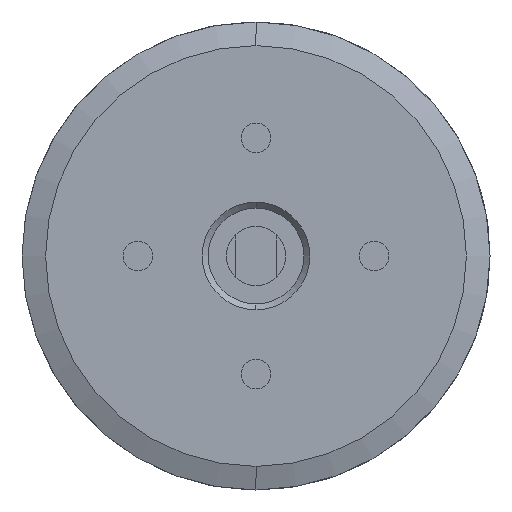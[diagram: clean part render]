
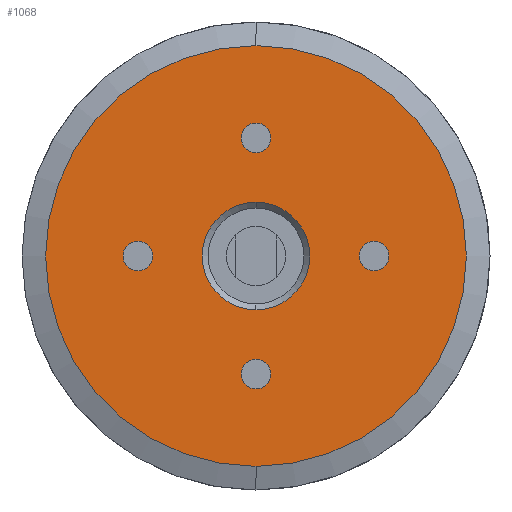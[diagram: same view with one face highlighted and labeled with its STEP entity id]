
A CAD part, left-side view. The second image highlights one B-rep face of the part: STEP entity #1068.
In plain terms, the highlighted planar face has unit normal (-1, 0, 0).
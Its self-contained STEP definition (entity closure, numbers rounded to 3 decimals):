
#91 = CARTESIAN_POINT ( 'NONE',  ( 0., 10., 0. ) ) ;
#202 = DIRECTION ( 'NONE',  ( -1., 0., 0. ) ) ;
#1068 = ADVANCED_FACE ( 'NONE', ( #25168, #28709, #18710, #15226, #38616, #47449 ), #24021, .F. ) ;
#1399 = EDGE_LOOP ( 'NONE', ( #25210, #21463 ) ) ;
#2071 = DIRECTION ( 'NONE',  ( 0., 0., -1. ) ) ;
#3689 = DIRECTION ( 'NONE',  ( 0., 0., -1. ) ) ;
#3822 = DIRECTION ( 'NONE',  ( 0., 0., 1. ) ) ;
#4030 = CARTESIAN_POINT ( 'NONE',  ( 0., 0., 8.75 ) ) ;
#4356 = VERTEX_POINT ( 'NONE', #43809 ) ;
#5303 = ORIENTED_EDGE ( 'NONE', *, *, #39334, .T. ) ;
#5646 = CARTESIAN_POINT ( 'NONE',  ( 0., 0., -8.75 ) ) ;
#5689 = CARTESIAN_POINT ( 'NONE',  ( 0., 0., -4.55 ) ) ;
#7775 = CARTESIAN_POINT ( 'NONE',  ( 0., 0., 0. ) ) ;
#8655 = VERTEX_POINT ( 'NONE', #26312 ) ;
#9538 = AXIS2_PLACEMENT_3D ( 'NONE', #43114, #35244, #16484 ) ;
#9671 = DIRECTION ( 'NONE',  ( 0., 0., 1. ) ) ;
#10459 = EDGE_LOOP ( 'NONE', ( #37796, #11679 ) ) ;
#10934 = AXIS2_PLACEMENT_3D ( 'NONE', #40005, #28936, #47922 ) ;
#11225 = EDGE_CURVE ( 'NONE', #12290, #30198, #36084, .T. ) ;
#11679 = ORIENTED_EDGE ( 'NONE', *, *, #13287, .F. ) ;
#11732 = VERTEX_POINT ( 'NONE', #26383 ) ;
#12290 = VERTEX_POINT ( 'NONE', #30933 ) ;
#12592 = CARTESIAN_POINT ( 'NONE',  ( 0., 0., -17.8 ) ) ;
#12968 = DIRECTION ( 'NONE',  ( -1., 0., 0. ) ) ;
#13287 = EDGE_CURVE ( 'NONE', #23819, #31602, #35637, .T. ) ;
#13619 = AXIS2_PLACEMENT_3D ( 'NONE', #7775, #22554, #3689 ) ;
#13766 = CIRCLE ( 'NONE', #13619, 17.8 ) ;
#14872 = DIRECTION ( 'NONE',  ( 0., 0., 1. ) ) ;
#15037 = EDGE_LOOP ( 'NONE', ( #15046, #24525 ) ) ;
#15046 = ORIENTED_EDGE ( 'NONE', *, *, #37079, .T. ) ;
#15226 = FACE_BOUND ( 'NONE', #10459, .T. ) ;
#15585 = DIRECTION ( 'NONE',  ( 0., 0., 1. ) ) ;
#15612 = AXIS2_PLACEMENT_3D ( 'NONE', #32126, #12968, #9671 ) ;
#15941 = ORIENTED_EDGE ( 'NONE', *, *, #11225, .F. ) ;
#15948 = AXIS2_PLACEMENT_3D ( 'NONE', #17991, #47967, #14872 ) ;
#15981 = EDGE_LOOP ( 'NONE', ( #15941, #47353 ) ) ;
#16233 = AXIS2_PLACEMENT_3D ( 'NONE', #29998, #35169, #36651 ) ;
#16484 = DIRECTION ( 'NONE',  ( 0., 0., 1. ) ) ;
#16778 = ORIENTED_EDGE ( 'NONE', *, *, #28721, .T. ) ;
#17737 = EDGE_CURVE ( 'NONE', #11732, #40946, #24805, .T. ) ;
#17991 = CARTESIAN_POINT ( 'NONE',  ( 0., -10., 0. ) ) ;
#18248 = CARTESIAN_POINT ( 'NONE',  ( 0., 0., 0. ) ) ;
#18710 = FACE_BOUND ( 'NONE', #40571, .T. ) ;
#18711 = CARTESIAN_POINT ( 'NONE',  ( 0., 10., 0. ) ) ;
#19428 = ORIENTED_EDGE ( 'NONE', *, *, #45410, .F. ) ;
#19449 = AXIS2_PLACEMENT_3D ( 'NONE', #91, #37558, #29740 ) ;
#19515 = DIRECTION ( 'NONE',  ( 0., 0., -1. ) ) ;
#20746 = DIRECTION ( 'NONE',  ( 1., 0., 0. ) ) ;
#21463 = ORIENTED_EDGE ( 'NONE', *, *, #40567, .F. ) ;
#21487 = VERTEX_POINT ( 'NONE', #4030 ) ;
#21904 = VERTEX_POINT ( 'NONE', #29229 ) ;
#22554 = DIRECTION ( 'NONE',  ( -1., 0., 0. ) ) ;
#23819 = VERTEX_POINT ( 'NONE', #32818 ) ;
#24021 = PLANE ( 'NONE',  #28716 ) ;
#24525 = ORIENTED_EDGE ( 'NONE', *, *, #35100, .T. ) ;
#24805 = CIRCLE ( 'NONE', #9538, 1.25 ) ;
#25168 = FACE_BOUND ( 'NONE', #15037, .T. ) ;
#25210 = ORIENTED_EDGE ( 'NONE', *, *, #27269, .F. ) ;
#25787 = DIRECTION ( 'NONE',  ( 0., 0., -1. ) ) ;
#26022 = CIRCLE ( 'NONE', #36999, 4.55 ) ;
#26312 = CARTESIAN_POINT ( 'NONE',  ( 0., 0., 11.25 ) ) ;
#26383 = CARTESIAN_POINT ( 'NONE',  ( 0., -10., 1.25 ) ) ;
#26708 = CARTESIAN_POINT ( 'NONE',  ( 0., 0., -10. ) ) ;
#27062 = CIRCLE ( 'NONE', #43261, 17.8 ) ;
#27269 = EDGE_CURVE ( 'NONE', #8655, #21487, #36088, .T. ) ;
#27836 = CIRCLE ( 'NONE', #10934, 1.25 ) ;
#28709 = FACE_BOUND ( 'NONE', #1399, .T. ) ;
#28716 = AXIS2_PLACEMENT_3D ( 'NONE', #43134, #20746, #42799 ) ;
#28721 = EDGE_CURVE ( 'NONE', #21904, #40149, #27062, .T. ) ;
#28936 = DIRECTION ( 'NONE',  ( -1., 0., 0. ) ) ;
#29088 = AXIS2_PLACEMENT_3D ( 'NONE', #43624, #32183, #2071 ) ;
#29229 = CARTESIAN_POINT ( 'NONE',  ( 0., 0., 17.8 ) ) ;
#29740 = DIRECTION ( 'NONE',  ( 0., 0., 1. ) ) ;
#29999 = CIRCLE ( 'NONE', #16233, 1.25 ) ;
#29998 = CARTESIAN_POINT ( 'NONE',  ( 0., 0., 10. ) ) ;
#30189 = CARTESIAN_POINT ( 'NONE',  ( 0., 0., 0. ) ) ;
#30198 = VERTEX_POINT ( 'NONE', #47740 ) ;
#30330 = CIRCLE ( 'NONE', #29088, 4.55 ) ;
#30824 = ORIENTED_EDGE ( 'NONE', *, *, #17737, .F. ) ;
#30933 = CARTESIAN_POINT ( 'NONE',  ( 0., 10., 1.25 ) ) ;
#31602 = VERTEX_POINT ( 'NONE', #5646 ) ;
#32126 = CARTESIAN_POINT ( 'NONE',  ( 0., 0., 10. ) ) ;
#32183 = DIRECTION ( 'NONE',  ( 1., 0., 0. ) ) ;
#32636 = AXIS2_PLACEMENT_3D ( 'NONE', #18711, #33923, #3822 ) ;
#32818 = CARTESIAN_POINT ( 'NONE',  ( 0., 0., -11.25 ) ) ;
#33923 = DIRECTION ( 'NONE',  ( -1., 0., 0. ) ) ;
#33975 = AXIS2_PLACEMENT_3D ( 'NONE', #26708, #42197, #15585 ) ;
#35100 = EDGE_CURVE ( 'NONE', #36887, #4356, #30330, .T. ) ;
#35169 = DIRECTION ( 'NONE',  ( -1., 0., 0. ) ) ;
#35244 = DIRECTION ( 'NONE',  ( -1., 0., 0. ) ) ;
#35637 = CIRCLE ( 'NONE', #33975, 1.25 ) ;
#36084 = CIRCLE ( 'NONE', #19449, 1.25 ) ;
#36088 = CIRCLE ( 'NONE', #15612, 1.25 ) ;
#36651 = DIRECTION ( 'NONE',  ( 0., 0., 1. ) ) ;
#36887 = VERTEX_POINT ( 'NONE', #5689 ) ;
#36992 = EDGE_CURVE ( 'NONE', #31602, #23819, #27836, .T. ) ;
#36999 = AXIS2_PLACEMENT_3D ( 'NONE', #18248, #40319, #25787 ) ;
#37079 = EDGE_CURVE ( 'NONE', #4356, #36887, #26022, .T. ) ;
#37370 = CIRCLE ( 'NONE', #32636, 1.25 ) ;
#37558 = DIRECTION ( 'NONE',  ( -1., 0., 0. ) ) ;
#37796 = ORIENTED_EDGE ( 'NONE', *, *, #36992, .F. ) ;
#38616 = FACE_OUTER_BOUND ( 'NONE', #47670, .T. ) ;
#39334 = EDGE_CURVE ( 'NONE', #40149, #21904, #13766, .T. ) ;
#40005 = CARTESIAN_POINT ( 'NONE',  ( 0., 0., -10. ) ) ;
#40149 = VERTEX_POINT ( 'NONE', #12592 ) ;
#40319 = DIRECTION ( 'NONE',  ( 1., 0., 0. ) ) ;
#40567 = EDGE_CURVE ( 'NONE', #21487, #8655, #29999, .T. ) ;
#40571 = EDGE_LOOP ( 'NONE', ( #30824, #19428 ) ) ;
#40787 = CARTESIAN_POINT ( 'NONE',  ( 0., -10., -1.25 ) ) ;
#40946 = VERTEX_POINT ( 'NONE', #40787 ) ;
#42197 = DIRECTION ( 'NONE',  ( -1., 0., 0. ) ) ;
#42799 = DIRECTION ( 'NONE',  ( 0., 0., -1. ) ) ;
#43114 = CARTESIAN_POINT ( 'NONE',  ( 0., -10., 0. ) ) ;
#43134 = CARTESIAN_POINT ( 'NONE',  ( 0., 19.8, 0. ) ) ;
#43261 = AXIS2_PLACEMENT_3D ( 'NONE', #30189, #202, #19515 ) ;
#43624 = CARTESIAN_POINT ( 'NONE',  ( 0., 0., 0. ) ) ;
#43809 = CARTESIAN_POINT ( 'NONE',  ( 0., 0., 4.55 ) ) ;
#45410 = EDGE_CURVE ( 'NONE', #40946, #11732, #47183, .T. ) ;
#46875 = EDGE_CURVE ( 'NONE', #30198, #12290, #37370, .T. ) ;
#47183 = CIRCLE ( 'NONE', #15948, 1.25 ) ;
#47353 = ORIENTED_EDGE ( 'NONE', *, *, #46875, .F. ) ;
#47449 = FACE_BOUND ( 'NONE', #15981, .T. ) ;
#47670 = EDGE_LOOP ( 'NONE', ( #5303, #16778 ) ) ;
#47740 = CARTESIAN_POINT ( 'NONE',  ( 0., 10., -1.25 ) ) ;
#47922 = DIRECTION ( 'NONE',  ( 0., 0., 1. ) ) ;
#47967 = DIRECTION ( 'NONE',  ( -1., 0., 0. ) ) ;
